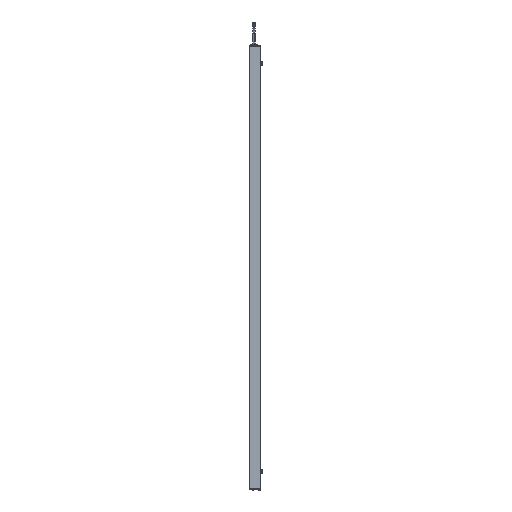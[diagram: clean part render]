
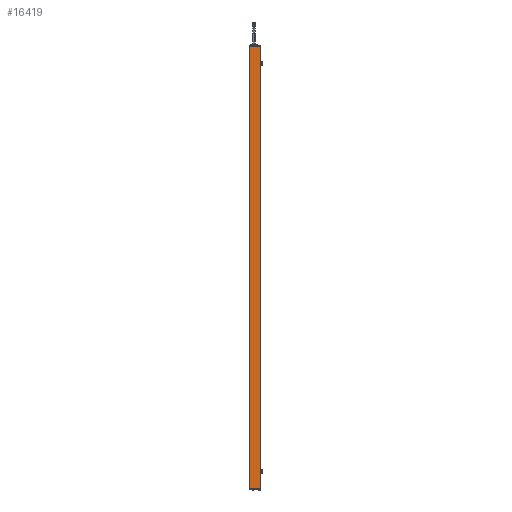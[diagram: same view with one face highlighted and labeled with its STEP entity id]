
A CAD part, left-side view. The second image highlights one B-rep face of the part: STEP entity #16419.
In plain terms, the highlighted planar face has unit normal (-1, 0, 0).
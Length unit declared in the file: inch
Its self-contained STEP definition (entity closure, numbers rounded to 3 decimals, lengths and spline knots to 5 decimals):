
#223 = AXIS2_PLACEMENT_3D ( 'NONE', #17601, #1645, #11720 ) ;
#1426 = CARTESIAN_POINT ( 'NONE',  ( -0.665, 0., 21.1575 ) ) ;
#1645 = DIRECTION ( 'NONE',  ( 1., 0., 0. ) ) ;
#1849 = CARTESIAN_POINT ( 'NONE',  ( -0.665, 0.015, 21.1575 ) ) ;
#2182 = ORIENTED_EDGE ( 'NONE', *, *, #6971, .T. ) ;
#2952 = EDGE_CURVE ( 'NONE', #15786, #7616, #7654, .T. ) ;
#3028 = PLANE ( 'NONE',  #223 ) ;
#3114 = DIRECTION ( 'NONE',  ( 0., 0., 1. ) ) ;
#5305 = CARTESIAN_POINT ( 'NONE',  ( -0.665, 0.015, 21.1575 ) ) ;
#5878 = CARTESIAN_POINT ( 'NONE',  ( -0.665, 0., -21.1575 ) ) ;
#6624 = VERTEX_POINT ( 'NONE', #11571 ) ;
#6971 = EDGE_CURVE ( 'NONE', #6624, #15786, #14602, .T. ) ;
#7167 = ORIENTED_EDGE ( 'NONE', *, *, #17398, .F. ) ;
#7528 = DIRECTION ( 'NONE',  ( 0., -1., 0. ) ) ;
#7616 = VERTEX_POINT ( 'NONE', #5305 ) ;
#7654 = LINE ( 'NONE', #1849, #11981 ) ;
#8633 = FACE_OUTER_BOUND ( 'NONE', #14909, .T. ) ;
#9057 = LINE ( 'NONE', #1426, #11593 ) ;
#10448 = VECTOR ( 'NONE', #16403, 39.37008 ) ;
#11104 = CARTESIAN_POINT ( 'NONE',  ( -0.665, 1.105, 21.1575 ) ) ;
#11571 = CARTESIAN_POINT ( 'NONE',  ( -0.665, 1.105, -21.1575 ) ) ;
#11593 = VECTOR ( 'NONE', #15679, 39.37008 ) ;
#11720 = DIRECTION ( 'NONE',  ( 0., 0., -1. ) ) ;
#11981 = VECTOR ( 'NONE', #3114, 39.37008 ) ;
#13018 = VECTOR ( 'NONE', #7528, 39.37008 ) ;
#13229 = LINE ( 'NONE', #17977, #10448 ) ;
#14602 = LINE ( 'NONE', #5878, #13018 ) ;
#14849 = ORIENTED_EDGE ( 'NONE', *, *, #17193, .T. ) ;
#14909 = EDGE_LOOP ( 'NONE', ( #7167, #14849, #2182, #15685 ) ) ;
#15118 = VERTEX_POINT ( 'NONE', #11104 ) ;
#15679 = DIRECTION ( 'NONE',  ( 0., -1., 0. ) ) ;
#15685 = ORIENTED_EDGE ( 'NONE', *, *, #2952, .T. ) ;
#15786 = VERTEX_POINT ( 'NONE', #18435 ) ;
#16403 = DIRECTION ( 'NONE',  ( 0., 0., -1. ) ) ;
#16419 = ADVANCED_FACE ( 'NONE', ( #8633 ), #3028, .F. ) ;
#17193 = EDGE_CURVE ( 'NONE', #15118, #6624, #13229, .T. ) ;
#17398 = EDGE_CURVE ( 'NONE', #15118, #7616, #9057, .T. ) ;
#17601 = CARTESIAN_POINT ( 'NONE',  ( -0.665, 0., 21.1575 ) ) ;
#17977 = CARTESIAN_POINT ( 'NONE',  ( -0.665, 1.105, 21.1575 ) ) ;
#18435 = CARTESIAN_POINT ( 'NONE',  ( -0.665, 0.015, -21.1575 ) ) ;
